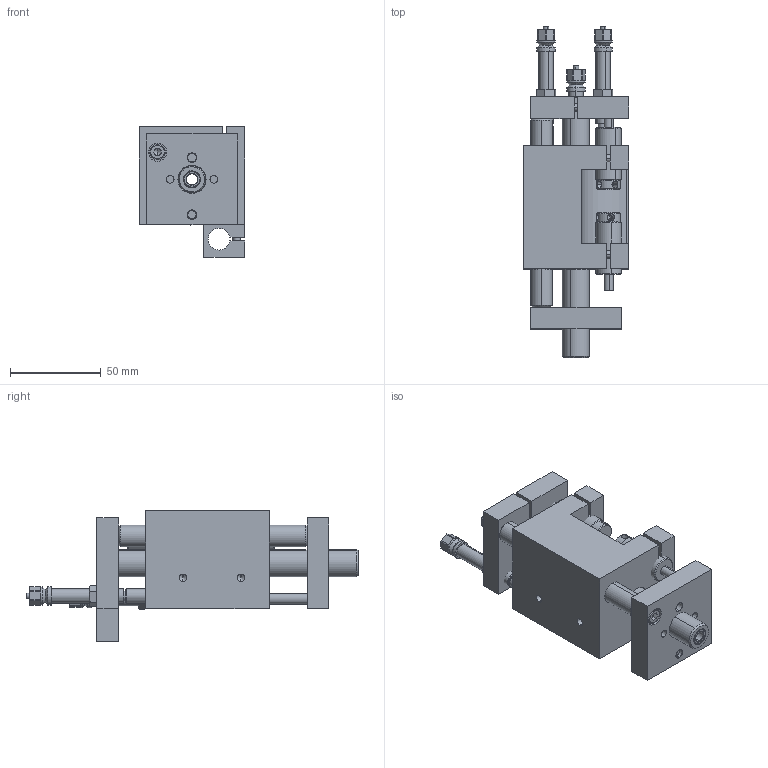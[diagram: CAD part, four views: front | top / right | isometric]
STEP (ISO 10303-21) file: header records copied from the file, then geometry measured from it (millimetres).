
FILE_DESCRIPTION (( 'STEP AP214' ), '1' );
FILE_NAME ('meto-fer_ve22.STEP', '2005-02-02T03:26:28', ( ' ' ), ( ' ' ), 'SwSTEP 2.0', 'SolidWorks 2003240', '' );
FILE_SCHEMA (( 'AUTOMOTIVE_DESIGN' ));
Length unit declared in the file: millimetre
Products named in the file (16): meto-fer_ve22_stop-rod; meto-fer_ve22_body; meto-fer_ve22; meto-fer_ve22_shaft; meto-fer_ve_tp; meto-fer_ve22_slide; meto-fer_kb-07; Socket Head Cap Screw_DIN_DIN 912 M4 x 12 --- 12N; meto-fer_ve_sd; meto-fer_ve22_spacer; meto-fer_as-08-40; meto-fer_ve_bush; Socket Head Cap Screw_DIN_DIN 912 M5 x 16 --- 16N; Socket Head Cap Screw_DIN_DIN 912 M4 x 30 --- 30N; meto-fer_mu-01-003
Assembly tree (23 placements, depth 3):
  meto-fer_ve22
    meto-fer_ve22_slide
      Socket Head Cap Screw_DIN_DIN 912 M5 x 16 --- 16N  x2
      meto-fer_as-08-40  x2
      meto-fer_ve_bush
      meto-fer_ve22_spacer
      meto-fer_ve_sd
      meto-fer_mu-01-003  x2
      meto-fer_ve22_shaft
      meto-fer_ve_tp
      meto-fer_ve22_stop-rod
      Socket Head Cap Screw_DIN_DIN 912 M4 x 30 --- 30N
      Socket Head Cap Screw_DIN_DIN 912 M4 x 12 --- 12N
    meto-fer_ve22_body
      meto-fer_mu-01-003
      Socket Head Cap Screw_DIN_DIN 912 M4 x 12 --- 12N  x2
      meto-fer_kb-07  x2
      meto-fer_as-08-40
      meto-fer_ve22_body
Bounding box: 58 x 183 x 72 mm (x, y, z)
Volume: 267358.2 mm3; surface area: 82502.9 mm2
Topology: 21 solids, 21 shells, 646 faces, 1485 edges, 876 vertices
Faces by surface type: plane 227, cylinder 198, cone 197, torus 24
Entity records: 13110 total; most frequent: CARTESIAN_POINT 2352, DIRECTION 2209, ORIENTED_EDGE 1874, EDGE_CURVE 937, AXIS2_PLACEMENT_3D 876, VERTEX_POINT 575, EDGE_LOOP 500, VECTOR 457
